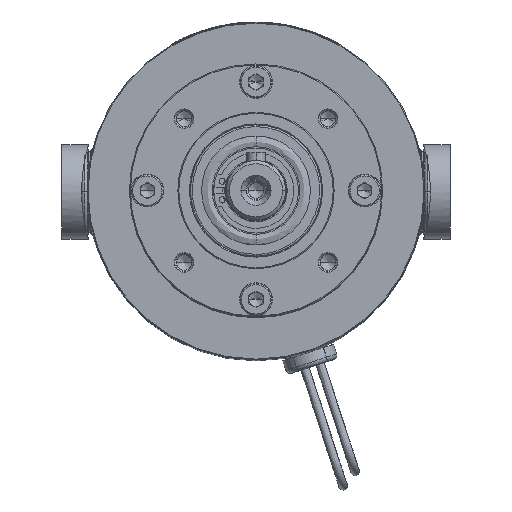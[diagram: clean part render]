
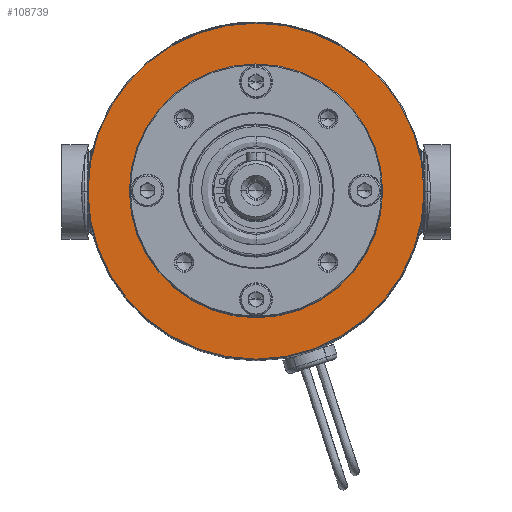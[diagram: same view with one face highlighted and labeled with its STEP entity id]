
A CAD part, top view. The second image highlights one B-rep face of the part: STEP entity #108739.
In plain terms, the highlighted planar face has unit normal (0, 0, 1).
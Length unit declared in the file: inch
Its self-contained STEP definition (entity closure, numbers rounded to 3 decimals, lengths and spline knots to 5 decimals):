
#395 = VERTEX_POINT ( 'NONE', #41471 ) ;
#3116 = AXIS2_PLACEMENT_3D ( 'NONE', #105715, #34411, #117703 ) ;
#7036 = EDGE_LOOP ( 'NONE', ( #38974, #110754 ) ) ;
#7244 = DIRECTION ( 'NONE',  ( 0., 0., 1. ) ) ;
#11510 = AXIS2_PLACEMENT_3D ( 'NONE', #30465, #113815, #42443 ) ;
#15465 = CARTESIAN_POINT ( 'NONE',  ( 0., 2.125, 0.743 ) ) ;
#17759 = EDGE_LOOP ( 'NONE', ( #141219, #139406 ) ) ;
#19697 = VERTEX_POINT ( 'NONE', #137029 ) ;
#20816 = EDGE_CURVE ( 'NONE', #146173, #127677, #85771, .T. ) ;
#27450 = DIRECTION ( 'NONE',  ( 1., 0., 0. ) ) ;
#30465 = CARTESIAN_POINT ( 'NONE',  ( 0., 0., 0.743 ) ) ;
#31437 = CIRCLE ( 'NONE', #81308, 1.535 ) ;
#34411 = DIRECTION ( 'NONE',  ( 0., 0., 1. ) ) ;
#38974 = ORIENTED_EDGE ( 'NONE', *, *, #93807, .T. ) ;
#39973 = DIRECTION ( 'NONE',  ( 0., 0., 1. ) ) ;
#41471 = CARTESIAN_POINT ( 'NONE',  ( 2.115, 0., 0.743 ) ) ;
#42443 = DIRECTION ( 'NONE',  ( 1., 0., 0. ) ) ;
#49049 = EDGE_CURVE ( 'NONE', #395, #19697, #120213, .T. ) ;
#61654 = CARTESIAN_POINT ( 'NONE',  ( 1.535, 0., 0.743 ) ) ;
#70671 = FACE_BOUND ( 'NONE', #17759, .T. ) ;
#78584 = CARTESIAN_POINT ( 'NONE',  ( 0., 0., 0.743 ) ) ;
#81308 = AXIS2_PLACEMENT_3D ( 'NONE', #78584, #7244, #90527 ) ;
#83115 = AXIS2_PLACEMENT_3D ( 'NONE', #111324, #39973, #123237 ) ;
#85771 = CIRCLE ( 'NONE', #83115, 1.535 ) ;
#90527 = DIRECTION ( 'NONE',  ( 1., 0., 0. ) ) ;
#93807 = EDGE_CURVE ( 'NONE', #19697, #395, #106116, .T. ) ;
#96307 = EDGE_CURVE ( 'NONE', #127677, #146173, #31437, .T. ) ;
#98773 = DIRECTION ( 'NONE',  ( 0., 0., 1. ) ) ;
#101204 = CARTESIAN_POINT ( 'NONE',  ( -1.535, 0., 0.743 ) ) ;
#102336 = FACE_OUTER_BOUND ( 'NONE', #7036, .T. ) ;
#105544 = AXIS2_PLACEMENT_3D ( 'NONE', #15465, #98773, #27450 ) ;
#105715 = CARTESIAN_POINT ( 'NONE',  ( 0., 0., 0.743 ) ) ;
#106116 = CIRCLE ( 'NONE', #3116, 2.115 ) ;
#108739 = ADVANCED_FACE ( 'NONE', ( #102336, #70671 ), #110314, .T. ) ;
#110314 = PLANE ( 'NONE',  #105544 ) ;
#110754 = ORIENTED_EDGE ( 'NONE', *, *, #49049, .T. ) ;
#111324 = CARTESIAN_POINT ( 'NONE',  ( 0., 0., 0.743 ) ) ;
#113815 = DIRECTION ( 'NONE',  ( 0., 0., 1. ) ) ;
#117703 = DIRECTION ( 'NONE',  ( 1., 0., 0. ) ) ;
#120213 = CIRCLE ( 'NONE', #11510, 2.115 ) ;
#123237 = DIRECTION ( 'NONE',  ( 1., 0., 0. ) ) ;
#127677 = VERTEX_POINT ( 'NONE', #101204 ) ;
#137029 = CARTESIAN_POINT ( 'NONE',  ( -2.115, 0., 0.743 ) ) ;
#139406 = ORIENTED_EDGE ( 'NONE', *, *, #96307, .F. ) ;
#141219 = ORIENTED_EDGE ( 'NONE', *, *, #20816, .F. ) ;
#146173 = VERTEX_POINT ( 'NONE', #61654 ) ;
